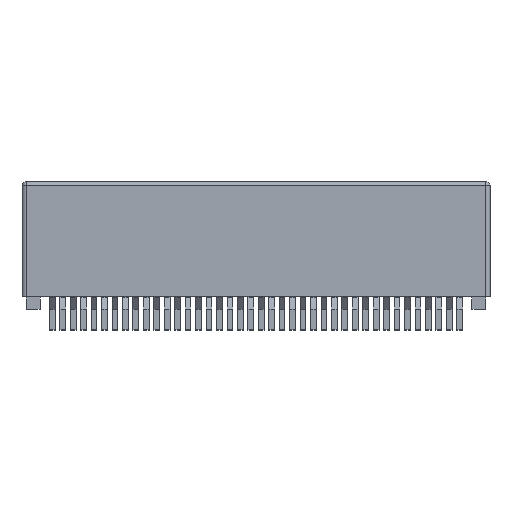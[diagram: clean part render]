
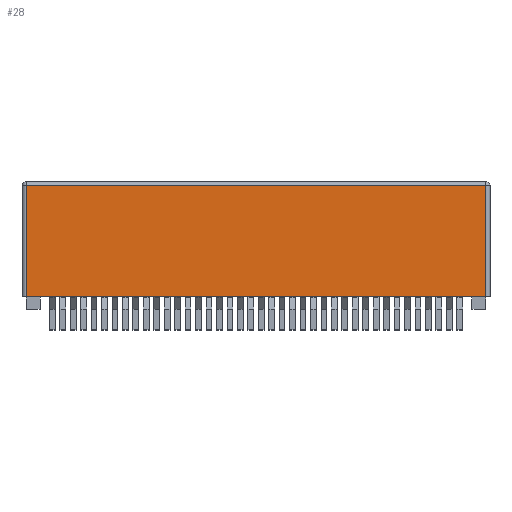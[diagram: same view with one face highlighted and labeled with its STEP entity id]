
A CAD part, front view. The second image highlights one B-rep face of the part: STEP entity #28.
In plain terms, the highlighted planar face has unit normal (0, -1, 0).
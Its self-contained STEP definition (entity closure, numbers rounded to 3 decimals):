
#28 = ADVANCED_FACE('',(#29),#63,.F.);
#29 = FACE_BOUND('',#30,.F.);
#30 = EDGE_LOOP('',(#31,#41,#49,#57));
#31 = ORIENTED_EDGE('',*,*,#32,.T.);
#32 = EDGE_CURVE('',#33,#35,#37,.T.);
#33 = VERTEX_POINT('',#34);
#34 = CARTESIAN_POINT('',(-3.185,-8.25,1.5));
#35 = VERTEX_POINT('',#36);
#36 = CARTESIAN_POINT('',(-3.185,-8.25,15.));
#37 = LINE('',#38,#39);
#38 = CARTESIAN_POINT('',(-3.185,-8.25,1.5));
#39 = VECTOR('',#40,1.);
#40 = DIRECTION('',(0.,0.,1.));
#41 = ORIENTED_EDGE('',*,*,#42,.T.);
#42 = EDGE_CURVE('',#35,#43,#45,.T.);
#43 = VERTEX_POINT('',#44);
#44 = CARTESIAN_POINT('',(52.715,-8.25,15.));
#45 = LINE('',#46,#47);
#46 = CARTESIAN_POINT('',(-3.185,-8.25,15.));
#47 = VECTOR('',#48,1.);
#48 = DIRECTION('',(1.,0.,0.));
#49 = ORIENTED_EDGE('',*,*,#50,.F.);
#50 = EDGE_CURVE('',#51,#43,#53,.T.);
#51 = VERTEX_POINT('',#52);
#52 = CARTESIAN_POINT('',(52.715,-8.25,1.5));
#53 = LINE('',#54,#55);
#54 = CARTESIAN_POINT('',(52.715,-8.25,1.5));
#55 = VECTOR('',#56,1.);
#56 = DIRECTION('',(0.,0.,1.));
#57 = ORIENTED_EDGE('',*,*,#58,.F.);
#58 = EDGE_CURVE('',#33,#51,#59,.T.);
#59 = LINE('',#60,#61);
#60 = CARTESIAN_POINT('',(-3.685,-8.25,1.5));
#61 = VECTOR('',#62,1.);
#62 = DIRECTION('',(1.,0.,0.));
#63 = PLANE('',#64);
#64 = AXIS2_PLACEMENT_3D('',#65,#66,#67);
#65 = CARTESIAN_POINT('',(-3.685,-8.25,1.5));
#66 = DIRECTION('',(0.,1.,0.));
#67 = DIRECTION('',(1.,0.,0.));
